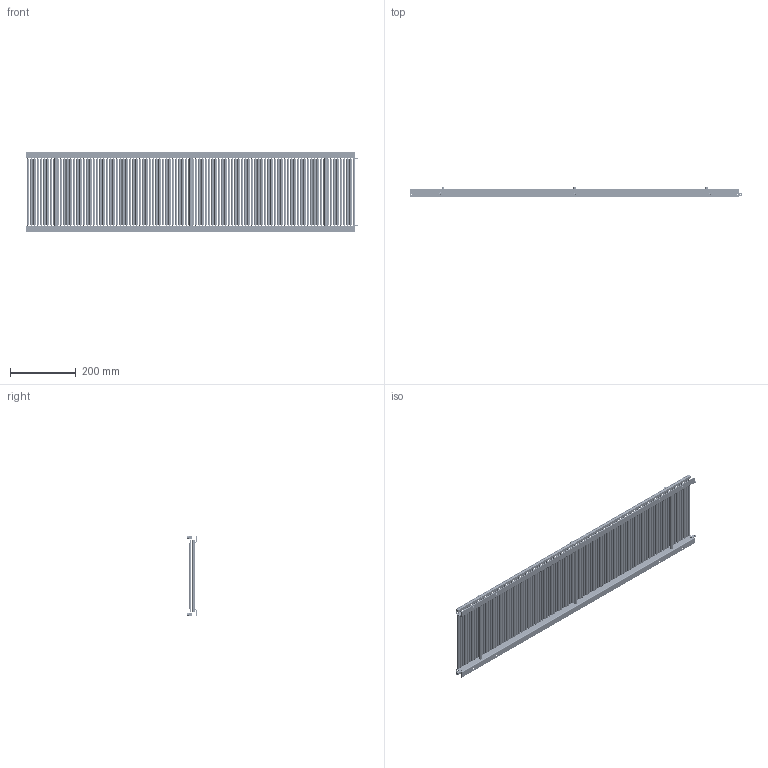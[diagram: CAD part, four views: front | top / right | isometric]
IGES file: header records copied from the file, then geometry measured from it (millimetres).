
Start section: SolidWorks IGES file using analytic representation for surfaces
Global section: file name: C:\Users\0656\Desktop\変換ツール\iges変換\RB-0820.igs; native system: SolidWorks 2023; preprocessor: SolidWorks 2023; author: 0656; date: 240220.170242; units: millimetre
Bounding box: 1008 x 29 x 244 mm (x, y, z)
Surface area: 1241665.7 mm2 (no closed solid volume)
Topology: 0 solids, 0 shells, 4830 faces, 70488 edges, 70464 vertices
Faces by surface type: bspline 2646, revolution 2184
